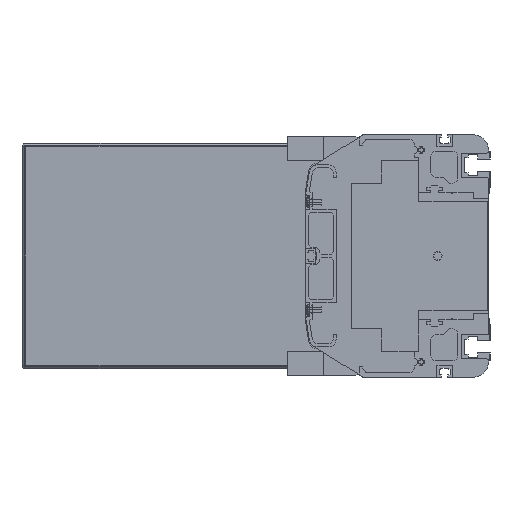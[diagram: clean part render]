
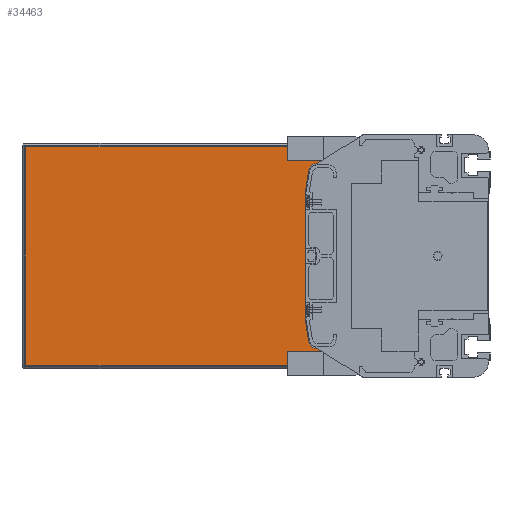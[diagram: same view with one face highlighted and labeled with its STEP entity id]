
A CAD part, left-side view. The second image highlights one B-rep face of the part: STEP entity #34463.
In plain terms, the highlighted planar face has unit normal (-1, 0, 0).
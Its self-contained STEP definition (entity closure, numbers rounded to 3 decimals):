
#3346=DIRECTION('',(0.,0.,-1.));
#3347=VECTOR('',#3346,11.);
#3348=CARTESIAN_POINT('',(3186.5,86.,-61.));
#3349=LINE('',#3348,#3347);
#3355=DIRECTION('',(0.,0.,-1.));
#3356=VECTOR('',#3355,11.);
#3357=CARTESIAN_POINT('',(3186.5,86.,72.));
#3358=LINE('',#3357,#3356);
#3368=DIRECTION('',(0.,-1.,0.));
#3369=VECTOR('',#3368,220.5);
#3370=CARTESIAN_POINT('',(3186.5,306.5,-72.));
#3371=LINE('',#3370,#3369);
#8058=DIRECTION('',(0.,1.,0.));
#8059=VECTOR('',#8058,28.728);
#8060=CARTESIAN_POINT('',(3186.5,86.,-61.));
#8061=LINE('',#8060,#8059);
#14247=DIRECTION('',(0.,-1.,0.));
#14248=VECTOR('',#14247,28.728);
#14249=CARTESIAN_POINT('',(3186.5,114.728,61.));
#14250=LINE('',#14249,#14248);
#14263=DIRECTION('',(0.,0.,1.));
#14264=VECTOR('',#14263,84.);
#14265=CARTESIAN_POINT('',(3186.5,122.,-42.));
#14266=LINE('',#14265,#14264);
#14275=CARTESIAN_POINT('',(3186.5,114.728,56.));
#14276=DIRECTION('',(-1.,0.,0.));
#14277=DIRECTION('',(0.,0.,1.));
#14278=AXIS2_PLACEMENT_3D('',#14275,#14276,#14277);
#14280=DIRECTION('',(0.,0.156,-0.988));
#14281=VECTOR('',#14280,14.963);
#14282=CARTESIAN_POINT('',(3186.5,119.666,56.78));
#14283=LINE('',#14282,#14281);
#14284=DIRECTION('',(0.,-0.156,-0.988));
#14285=VECTOR('',#14284,14.963);
#14286=CARTESIAN_POINT('',(3186.5,122.,-42.));
#14287=LINE('',#14286,#14285);
#14288=CARTESIAN_POINT('',(3186.5,114.728,-56.));
#14289=DIRECTION('',(-1.,0.,0.));
#14290=DIRECTION('',(0.,0.988,-0.156));
#14291=AXIS2_PLACEMENT_3D('',#14288,#14289,#14290);
#14297=DIRECTION('',(0.,0.,-1.));
#14298=VECTOR('',#14297,144.);
#14299=CARTESIAN_POINT('',(3186.5,306.5,72.));
#14300=LINE('',#14299,#14298);
#14466=DIRECTION('',(0.,1.,0.));
#14467=VECTOR('',#14466,220.5);
#14468=CARTESIAN_POINT('',(3186.5,86.,72.));
#14469=LINE('',#14468,#14467);
#16740=CARTESIAN_POINT('',(3186.5,306.5,-72.));
#16741=CARTESIAN_POINT('',(3186.5,86.,-72.));
#16742=VERTEX_POINT('',#16740);
#16743=VERTEX_POINT('',#16741);
#16744=CARTESIAN_POINT('',(3186.5,86.,-61.));
#16745=VERTEX_POINT('',#16744);
#16746=CARTESIAN_POINT('',(3186.5,114.728,-61.));
#16747=VERTEX_POINT('',#16746);
#16748=CARTESIAN_POINT('',(3186.5,119.666,-56.78));
#16749=VERTEX_POINT('',#16748);
#16750=CARTESIAN_POINT('',(3186.5,122.,-42.));
#16751=VERTEX_POINT('',#16750);
#16752=CARTESIAN_POINT('',(3186.5,122.,42.));
#16753=VERTEX_POINT('',#16752);
#16754=CARTESIAN_POINT('',(3186.5,119.666,56.78));
#16755=VERTEX_POINT('',#16754);
#16756=CARTESIAN_POINT('',(3186.5,114.728,61.));
#16757=VERTEX_POINT('',#16756);
#16758=CARTESIAN_POINT('',(3186.5,86.,61.));
#16759=VERTEX_POINT('',#16758);
#16760=CARTESIAN_POINT('',(3186.5,86.,72.));
#16761=VERTEX_POINT('',#16760);
#16762=CARTESIAN_POINT('',(3186.5,306.5,72.));
#16763=VERTEX_POINT('',#16762);
#34440=CARTESIAN_POINT('',(3186.5,196.25,0.));
#34441=DIRECTION('',(1.,0.,0.));
#34442=DIRECTION('',(0.,0.,-1.));
#34443=AXIS2_PLACEMENT_3D('',#34440,#34441,#34442);
#34444=PLANE('',#34443);
#34445=ORIENTED_EDGE('',*,*,#21898,.F.);
#34447=ORIENTED_EDGE('',*,*,#34446,.F.);
#34449=ORIENTED_EDGE('',*,*,#34448,.F.);
#34450=ORIENTED_EDGE('',*,*,#21880,.T.);
#34451=ORIENTED_EDGE('',*,*,#34392,.F.);
#34452=ORIENTED_EDGE('',*,*,#34405,.T.);
#34453=ORIENTED_EDGE('',*,*,#34421,.T.);
#34454=ORIENTED_EDGE('',*,*,#34431,.F.);
#34456=ORIENTED_EDGE('',*,*,#34455,.T.);
#34458=ORIENTED_EDGE('',*,*,#34457,.T.);
#34459=ORIENTED_EDGE('',*,*,#26011,.F.);
#34460=ORIENTED_EDGE('',*,*,#21848,.T.);
#34461=EDGE_LOOP('',(#34445,#34447,#34449,#34450,#34451,#34452,#34453,#34454,
#34456,#34458,#34459,#34460));
#34462=FACE_OUTER_BOUND('',#34461,.F.);
#34463=ADVANCED_FACE('',(#34462),#34444,.F.);
#14279=CIRCLE('',#14278,5.);
#14292=CIRCLE('',#14291,5.);
#21848=EDGE_CURVE('',#16745,#16743,#3349,.T.);
#21880=EDGE_CURVE('',#16761,#16759,#3358,.T.);
#21898=EDGE_CURVE('',#16742,#16743,#3371,.T.);
#26011=EDGE_CURVE('',#16745,#16747,#8061,.T.);
#34392=EDGE_CURVE('',#16757,#16759,#14250,.T.);
#34405=EDGE_CURVE('',#16757,#16755,#14279,.T.);
#34421=EDGE_CURVE('',#16755,#16753,#14283,.T.);
#34431=EDGE_CURVE('',#16751,#16753,#14266,.T.);
#34446=EDGE_CURVE('',#16763,#16742,#14300,.T.);
#34448=EDGE_CURVE('',#16761,#16763,#14469,.T.);
#34455=EDGE_CURVE('',#16751,#16749,#14287,.T.);
#34457=EDGE_CURVE('',#16749,#16747,#14292,.T.);
